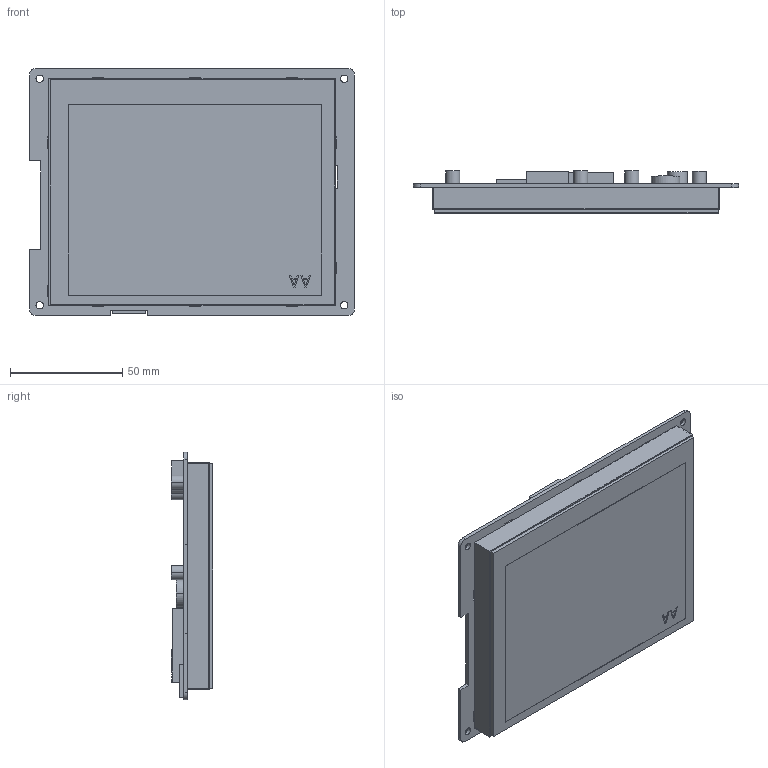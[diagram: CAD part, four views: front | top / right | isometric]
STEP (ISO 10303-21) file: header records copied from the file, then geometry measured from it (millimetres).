
FILE_DESCRIPTION((''),'2;1');
FILE_NAME('DMG64480T056-01WTR_ASM','2021-10-31T',('Administrator'),(''),'PRO/ENGINEER BY PARAMETRIC TECHNOLOGY CORPORATION, 2014320','PRO/ENGINEER BY PARAMETRIC TECHNOLOGY CORPORATION, 2014320','');
FILE_SCHEMA(('CONFIG_CONTROL_DESIGN'));
Length unit declared in the file: millimetre
Products named in the file (5): TK056004; AT056TN52; RTP1; PCB1; DMG64480T056-01WTR_ASM
Assembly tree (4 placements, depth 2):
  DMG64480T056-01WTR_ASM
    TK056004
    AT056TN52
    RTP1
    PCB1
Bounding box: 144.78 x 18.65 x 110.24 mm (x, y, z)
Volume: 125376.3 mm3; surface area: 103245.3 mm2
Topology: 4 solids, 4 shells, 205 faces, 526 edges, 350 vertices
Faces by surface type: plane 177, cylinder 28
Entity records: 6337 total; most frequent: CARTESIAN_POINT 1090, ORIENTED_EDGE 1052, DIRECTION 1010, EDGE_CURVE 526, VECTOR 470, LINE 470, VERTEX_POINT 350, AXIS2_PLACEMENT_3D 270
